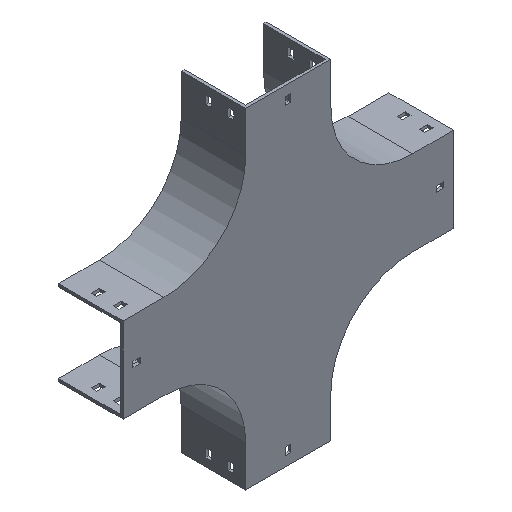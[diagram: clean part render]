
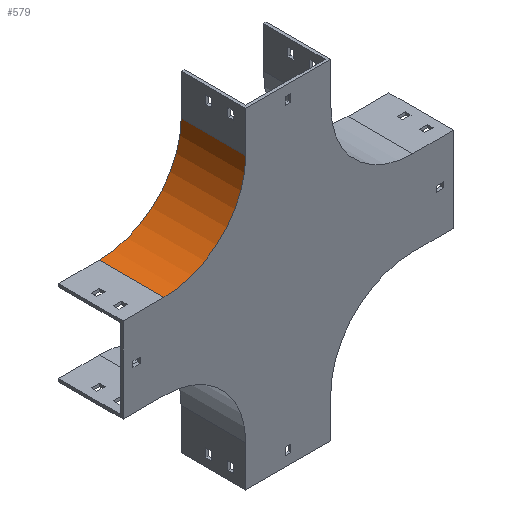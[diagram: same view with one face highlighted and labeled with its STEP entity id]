
A CAD part, isometric view. The second image highlights one B-rep face of the part: STEP entity #579.
In plain terms, the highlighted cylindrical face has radius 100 mm (diameter 200 mm), a partial arc.
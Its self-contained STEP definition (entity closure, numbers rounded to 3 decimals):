
#78 = DIRECTION ( 'NONE',  ( 0., -1., 0. ) ) ;
#126 = VERTEX_POINT ( 'NONE', #1507 ) ;
#133 = FACE_OUTER_BOUND ( 'NONE', #2644, .T. ) ;
#242 = AXIS2_PLACEMENT_3D ( 'NONE', #1659, #2806, #784 ) ;
#344 = AXIS2_PLACEMENT_3D ( 'NONE', #3249, #1462, #1480 ) ;
#384 = CARTESIAN_POINT ( 'NONE',  ( -304., 79., -100. ) ) ;
#449 = CARTESIAN_POINT ( 'NONE',  ( -204., 79., 0. ) ) ;
#524 = VERTEX_POINT ( 'NONE', #384 ) ;
#549 = ORIENTED_EDGE ( 'NONE', *, *, #1385, .T. ) ;
#579 = ADVANCED_FACE ( 'NONE', ( #133 ), #3662, .F. ) ;
#669 = ORIENTED_EDGE ( 'NONE', *, *, #925, .T. ) ;
#723 = CIRCLE ( 'NONE', #344, 100. ) ;
#779 = EDGE_CURVE ( 'NONE', #524, #2314, #3260, .T. ) ;
#784 = DIRECTION ( 'NONE',  ( 0., 0., -1. ) ) ;
#836 = ORIENTED_EDGE ( 'NONE', *, *, #779, .F. ) ;
#925 = EDGE_CURVE ( 'NONE', #524, #126, #1451, .T. ) ;
#1385 = EDGE_CURVE ( 'NONE', #126, #2490, #723, .T. ) ;
#1451 = LINE ( 'NONE', #2608, #1866 ) ;
#1462 = DIRECTION ( 'NONE',  ( 0., -1., 0. ) ) ;
#1480 = DIRECTION ( 'NONE',  ( 0., 0., 1. ) ) ;
#1487 = CARTESIAN_POINT ( 'NONE',  ( -204., 79., 0. ) ) ;
#1507 = CARTESIAN_POINT ( 'NONE',  ( -304., 0., -100. ) ) ;
#1631 = DIRECTION ( 'NONE',  ( 0., -1., 0. ) ) ;
#1659 = CARTESIAN_POINT ( 'NONE',  ( -304., 79., 0. ) ) ;
#1866 = VECTOR ( 'NONE', #78, 1000. ) ;
#2314 = VERTEX_POINT ( 'NONE', #1487 ) ;
#2330 = ORIENTED_EDGE ( 'NONE', *, *, #3170, .F. ) ;
#2390 = LINE ( 'NONE', #449, #3807 ) ;
#2490 = VERTEX_POINT ( 'NONE', #2604 ) ;
#2598 = AXIS2_PLACEMENT_3D ( 'NONE', #3761, #3373, #3109 ) ;
#2604 = CARTESIAN_POINT ( 'NONE',  ( -204., 0., 0. ) ) ;
#2608 = CARTESIAN_POINT ( 'NONE',  ( -304., 79., -100. ) ) ;
#2644 = EDGE_LOOP ( 'NONE', ( #549, #2330, #836, #669 ) ) ;
#2806 = DIRECTION ( 'NONE',  ( 0., -1., 0. ) ) ;
#3109 = DIRECTION ( 'NONE',  ( 0., 0., 1. ) ) ;
#3170 = EDGE_CURVE ( 'NONE', #2314, #2490, #2390, .T. ) ;
#3249 = CARTESIAN_POINT ( 'NONE',  ( -304., 0., 0. ) ) ;
#3260 = CIRCLE ( 'NONE', #2598, 100. ) ;
#3373 = DIRECTION ( 'NONE',  ( 0., -1., 0. ) ) ;
#3662 = CYLINDRICAL_SURFACE ( 'NONE', #242, 100. ) ;
#3761 = CARTESIAN_POINT ( 'NONE',  ( -304., 79., 0. ) ) ;
#3807 = VECTOR ( 'NONE', #1631, 1000. ) ;
